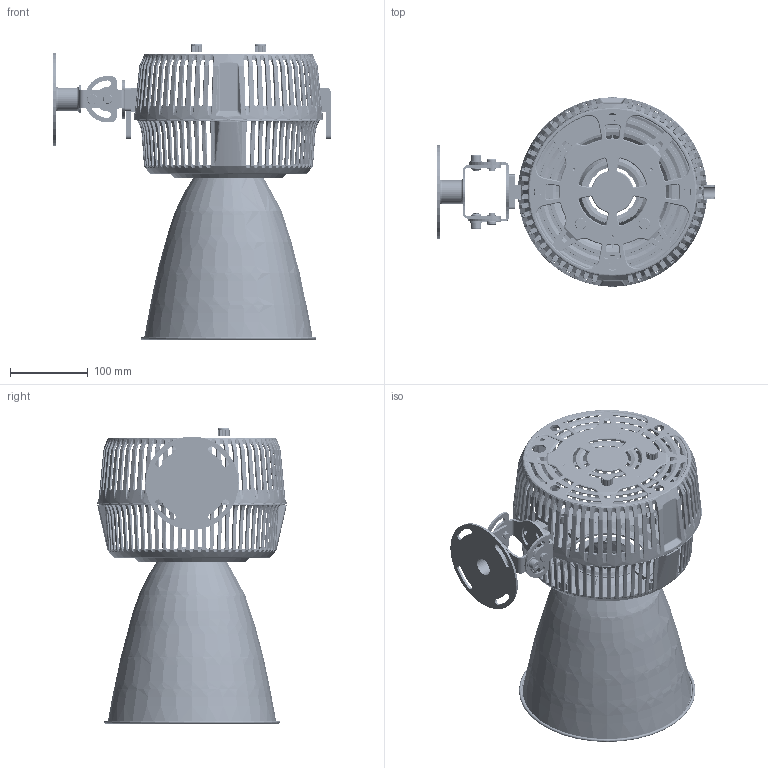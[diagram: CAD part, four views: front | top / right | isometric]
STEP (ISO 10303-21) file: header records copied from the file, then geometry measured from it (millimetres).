
FILE_DESCRIPTION (( 'STEP AP214' ), '1' );
FILE_NAME ('W2KN-PVT-Fixture2.STEP', '2024-02-29T19:43:59', ( '' ), ( '' ), 'SwSTEP 2.0', 'SolidWorks 2022', '' );
FILE_SCHEMA (( 'AUTOMOTIVE_DESIGN' ));
Length unit declared in the file: millimetre
Products named in the file (18): PIVOT Mount___^W2KN-PVT-Fixture.STEP; 5022530-2022-01-10___^W2KN-PVT-Fixture.STEP; ID8,OD16,T1.5 WASHER___^PIVOT Mount____W2KN-PVT-Fixture.STEP; 5022531_X1_BOTTOM HOUSING FOR W2K&A2K^W2KN-PVT-Fixture.STEP; 5022640_A1_Single Arm Axis, L=15mm___^PIVOT Mount____W2KN-PVT-Fixture.STEP; W2KN-PVT-Fixture2; SCREW, PAN HEAD SUS-304, M4.0 x L5mm___^REFLECTOR-30____W2KN-PVT-Fixture.STEP; 5022496_X2_Yoke Adapter___^W2KN-PVT-Fixture.STEP; 5021926_A1_KNOB, 18T, OD=14.9, ID=6, L=10MM___.STEP; 5022499_X2_Single Arm Pivot Base___^W2KN-PVT-Fixture.STEP; SCREW, M8 L8 CAP HEAD, HEX SOCKET, SUS, BLACK___^PIVOT Mount____W2KN-PVT-Fixture.STEP; 5022497_X1_Single Arm Base___^PIVOT Mount____W2KN-PVT-Fixture.STEP; 5022642_A2_C Circlip, ID=7.4mm___^PIVOT Mount____W2KN-PVT-Fixture.STEP; 5022645-XXX_A1_REFLECTOR-30 FOR W2K___^REFLECTOR-30____W2KN-PVT-Fixture.STEP; WASHER ID4.2,OD10,T=1___^REFLECTOR-30____W2KN-PVT-Fixture.STEP; 5022498_X1_Single Arm Pivot___^PIVOT Mount____W2KN-PVT-Fixture.STEP; SCREW, M8 L8 CAP HEAD, HEX SOCKET, SUS, BLACK___^W2KN-PVT-Fixture.STEP; REFLECTOR-30___^W2KN-PVT-Fixture.STEP
Assembly tree (29 placements, depth 3):
  W2KN-PVT-Fixture2
    PIVOT Mount___^W2KN-PVT-Fixture.STEP
      5022497_X1_Single Arm Base___^PIVOT Mount____W2KN-PVT-Fixture.STEP
      5022498_X1_Single Arm Pivot___^PIVOT Mount____W2KN-PVT-Fixture.STEP
      5022640_A1_Single Arm Axis, L=15mm___^PIVOT Mount____W2KN-PVT-Fixture.STEP  x2
      5022642_A2_C Circlip, ID=7.4mm___^PIVOT Mount____W2KN-PVT-Fixture.STEP  x2
      SCREW, M8 L8 CAP HEAD, HEX SOCKET, SUS, BLACK___^PIVOT Mount____W2KN-PVT-Fixture.STEP  x2
      ID8,OD16,T1.5 WASHER___^PIVOT Mount____W2KN-PVT-Fixture.STEP  x2
    REFLECTOR-30___^W2KN-PVT-Fixture.STEP
      5022645-XXX_A1_REFLECTOR-30 FOR W2K___^REFLECTOR-30____W2KN-PVT-Fixture.STEP
      SCREW, PAN HEAD SUS-304, M4.0 x L5mm___^REFLECTOR-30____W2KN-PVT-Fixture.STEP  x4
      WASHER ID4.2,OD10,T=1___^REFLECTOR-30____W2KN-PVT-Fixture.STEP  x4
    5022531_X1_BOTTOM HOUSING FOR W2K&A2K^W2KN-PVT-Fixture.STEP
    5022496_X2_Yoke Adapter___^W2KN-PVT-Fixture.STEP  x2
    5022530-2022-01-10___^W2KN-PVT-Fixture.STEP
    5021926_A1_KNOB, 18T, OD=14.9, ID=6, L=10MM___.STEP  x2
    SCREW, M8 L8 CAP HEAD, HEX SOCKET, SUS, BLACK___^W2KN-PVT-Fixture.STEP
    5022499_X2_Single Arm Pivot Base___^W2KN-PVT-Fixture.STEP
Bounding box: 357 x 243.79 x 380.3 mm (x, y, z)
Volume: 588750 mm3; surface area: 650547.3 mm2
Topology: 27 solids, 27 shells, 5824 faces, 15375 edges, 9423 vertices
Faces by surface type: bspline 2305, plane 1340, cylinder 1242, torus 477, cone 460
Entity records: 287244 total; most frequent: CARTESIAN_POINT 176590, ORIENTED_EDGE 27384, DIRECTION 17771, EDGE_CURVE 13692, VERTEX_POINT 8311, AXIS2_PLACEMENT_3D 7603, B_SPLINE_CURVE_WITH_KNOTS 6253, EDGE_LOOP 5439
